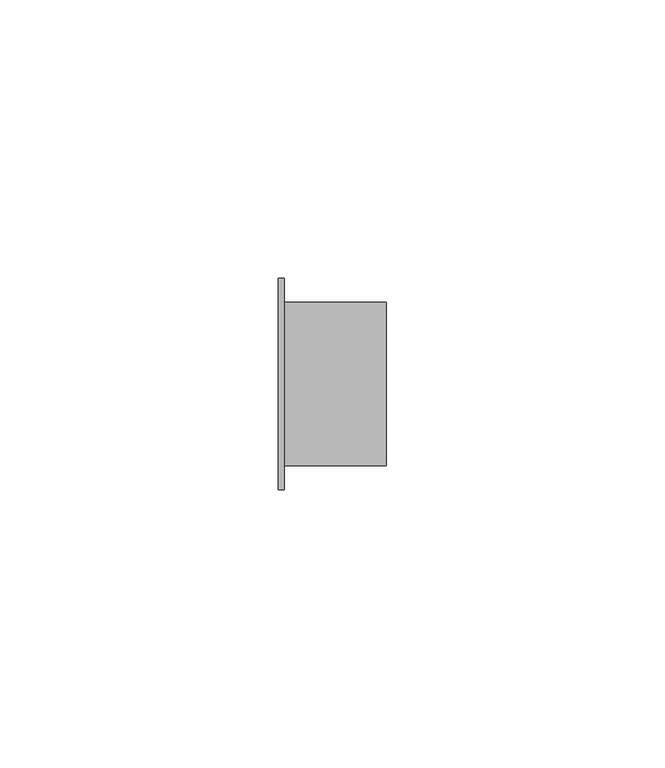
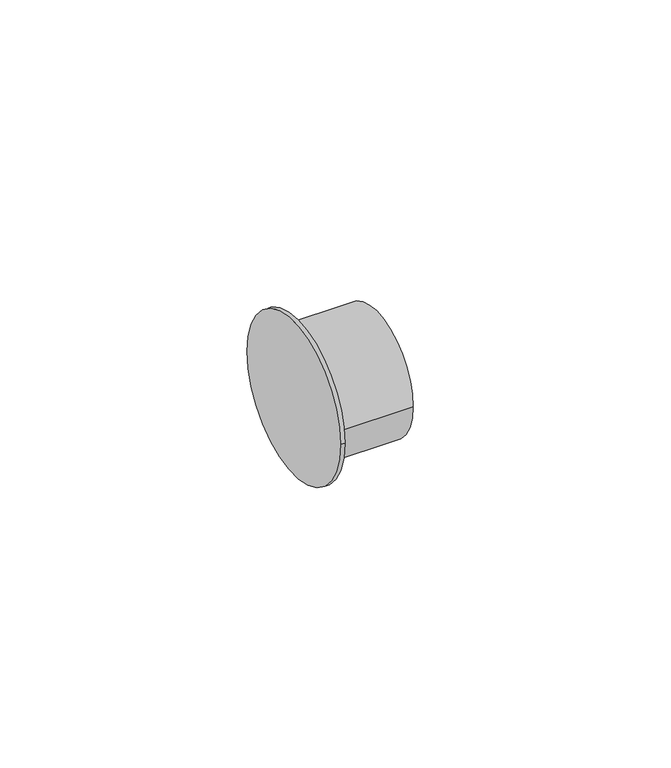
"""IFC4 building model written with IfcOpenShell, lengths in millimetres: pipe fitting geometry, Bucha de redução reta - Soldada - CU : Padrão."""

from ifc_helpers import new_model, si_unit, frame, origin, place, context, project, spatial, circle_curve, source, transform, mapped, element, save
from ifc_brep_helpers import plane_surface, cylinder_surface, advanced_brep


def pipe_fitting_65e16ea6(model_context):
    return source(origin(), model_context, "Body", "AdvancedBrep", [
        advanced_brep(
        [(0.0, 18.95, 0.0), (0.0, -18.95, 0.0), (1.0, 18.95, 0.0), (1.0, -18.95, 0.0), (1.0, 14.7, 0.0), (1.0, -14.7, 0.0), (19.4, 14.7, 0.0), (19.4, -14.7, 0.0)],
        [
            (0, 1, circle_curve(frame((0.0, 0.0, 0.0), z_axis=(-1.0, 0.0, 0.0), x_axis=(0.0, -1.0, 0.0)), 18.95)),
            (1, 0, circle_curve(frame((0.0, 0.0, 0.0), z_axis=(-1.0, 0.0, 0.0), x_axis=(0.0, -1.0, 0.0)), 18.95)),
            (2, 3, circle_curve(frame((1.0, 0.0, 0.0), z_axis=(1.0, 0.0, 0.0), x_axis=(0.0, -1.0, 0.0)), 18.95)),
            (3, 2, circle_curve(frame((1.0, 0.0, 0.0), z_axis=(1.0, 0.0, 0.0), x_axis=(0.0, -1.0, 0.0)), 18.95)),
            (4, 5, circle_curve(frame((1.0, 0.0, 0.0), z_axis=(-1.0, 0.0, 0.0), x_axis=(0.0, -1.0, 0.0)), 14.7)),
            (5, 4, circle_curve(frame((1.0, 0.0, 0.0), z_axis=(-1.0, 0.0, 0.0), x_axis=(0.0, -1.0, 0.0)), 14.7)),
            (1, 3),
            (2, 0),
            (6, 7, circle_curve(frame((19.4, 0.0, 0.0), z_axis=(1.0, 0.0, 0.0), x_axis=(0.0, -1.0, 0.0)), 14.7)),
            (7, 6, circle_curve(frame((19.4, 0.0, 0.0), z_axis=(1.0, 0.0, 0.0), x_axis=(0.0, -1.0, 0.0)), 14.7)),
            (6, 4),
            (5, 7),
        ],
        [
            plane_surface(frame((0.0, 0.0, 0.0), z_axis=(-1.0, 0.0, 0.0), x_axis=(0.0, 0.0, 1.0))),
            plane_surface(frame((1.0, 0.0, 0.0), z_axis=(1.0, 0.0, 0.0), x_axis=(0.0, 0.0, 1.0))),
            cylinder_surface(frame((0.0, 0.0, 0.0), z_axis=(-1.0, 0.0, 0.0), x_axis=(0.0, -1.0, 0.0)), 18.95),
            plane_surface(frame((19.4, 0.0, 0.0), z_axis=(1.0, 0.0, 0.0), x_axis=(0.0, 0.0, 1.0))),
            cylinder_surface(frame((1.0, 0.0, 0.0), z_axis=(-1.0, 0.0, 0.0), x_axis=(0.0, -1.0, 0.0)), 14.7),
        ],
        [
            (0, [[1, 2]]),
            (1, [[3, 4], [5, 6]]),
            (2, [[7, -3, 8, -2]]),
            (2, [[-8, -4, -7, -1]]),
            (3, [[9, 10]]),
            (4, [[11, -6, 12, -9]]),
            (4, [[-12, -5, -11, -10]]),
        ],
    ),
    ])


if __name__ == "__main__":
    model = new_model("IFC4")
    model_context = context("Model", 3, world=origin())
    ifc_project = project(units=[si_unit("LENGTHUNIT", "METRE", prefix="MILLI")], contexts=[model_context])
    site = spatial("IfcSite", under=ifc_project)
    building = spatial("IfcBuilding", under=site)
    placement = place(None, origin())
    pipe_fitting_shape = pipe_fitting_65e16ea6(model_context)
    element("IfcPipeFitting", 1, ObjectType="Bucha de redução reta - Soldada - CU : Padrão", at=placement, inside=building, context=model_context, shape_type="MappedRepresentation", body=[
        mapped(pipe_fitting_shape, transform((0.0, 0.0, 0.0), x_axis=(1.0, 0.0, 0.0), y_axis=(0.0, 1.0, 0.0), z_axis=(0.0, 0.0, 1.0))),
    ])
    save(model, "model.ifc")
